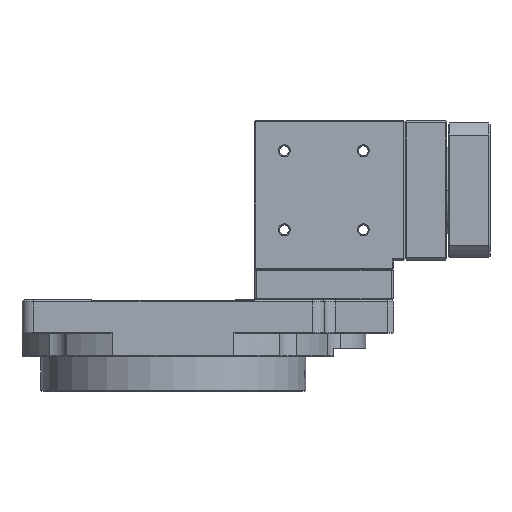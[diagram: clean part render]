
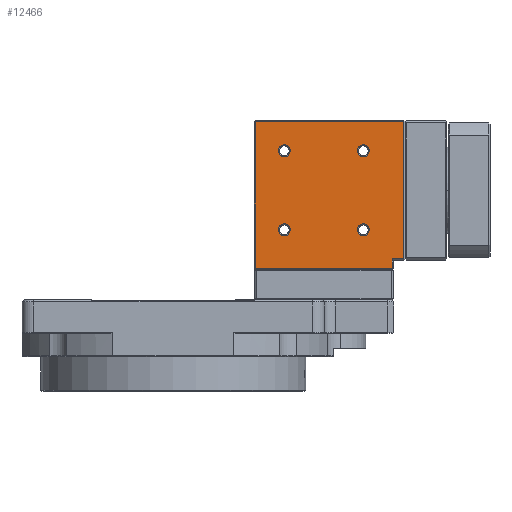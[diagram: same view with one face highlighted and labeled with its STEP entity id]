
A CAD part, left-side view. The second image highlights one B-rep face of the part: STEP entity #12466.
In plain terms, the highlighted planar face has unit normal (-1, 0, 0).
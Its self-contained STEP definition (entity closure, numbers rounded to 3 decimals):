
#392 = VERTEX_POINT ( 'NONE', #23809 ) ;
#496 = CARTESIAN_POINT ( 'NONE',  ( -30., -81.8, 30. ) ) ;
#538 = FACE_BOUND ( 'NONE', #18017, .T. ) ;
#599 = EDGE_CURVE ( 'NONE', #15937, #2745, #4019, .T. ) ;
#883 = CARTESIAN_POINT ( 'NONE',  ( -30., -35.3, 76.5 ) ) ;
#1084 = CARTESIAN_POINT ( 'NONE',  ( -30., -94.3, 17. ) ) ;
#1326 = LINE ( 'NONE', #1084, #6176 ) ;
#1551 = VERTEX_POINT ( 'NONE', #883 ) ;
#1647 = DIRECTION ( 'NONE',  ( 1., 0., 0. ) ) ;
#1804 = ORIENTED_EDGE ( 'NONE', *, *, #599, .T. ) ;
#1851 = VECTOR ( 'NONE', #4631, 1000. ) ;
#1941 = EDGE_CURVE ( 'NONE', #2745, #1551, #12264, .T. ) ;
#2095 = EDGE_CURVE ( 'NONE', #9287, #10861, #22363, .T. ) ;
#2164 = EDGE_LOOP ( 'NONE', ( #17955, #4407 ) ) ;
#2192 = CARTESIAN_POINT ( 'NONE',  ( -30., -81.8, 64. ) ) ;
#2228 = AXIS2_PLACEMENT_3D ( 'NONE', #2192, #4117, #7868 ) ;
#2311 = VERTEX_POINT ( 'NONE', #19031 ) ;
#2368 = DIRECTION ( 'NONE',  ( 0., 1., 0. ) ) ;
#2369 = FACE_BOUND ( 'NONE', #2164, .T. ) ;
#2601 = DIRECTION ( 'NONE',  ( 0., 1., 0. ) ) ;
#2745 = VERTEX_POINT ( 'NONE', #12428 ) ;
#3174 = EDGE_CURVE ( 'NONE', #392, #18259, #18302, .T. ) ;
#3214 = EDGE_LOOP ( 'NONE', ( #23731, #5977, #7365, #1804, #20085, #23746 ) ) ;
#3591 = CARTESIAN_POINT ( 'NONE',  ( -30., -84.4, 30. ) ) ;
#3787 = DIRECTION ( 'NONE',  ( 1., 0., 0. ) ) ;
#3812 = VECTOR ( 'NONE', #15493, 1000. ) ;
#3899 = AXIS2_PLACEMENT_3D ( 'NONE', #11581, #6121, #7699 ) ;
#4019 = LINE ( 'NONE', #5960, #21917 ) ;
#4117 = DIRECTION ( 'NONE',  ( 1., 0., 0. ) ) ;
#4407 = ORIENTED_EDGE ( 'NONE', *, *, #23702, .T. ) ;
#4631 = DIRECTION ( 'NONE',  ( 0., -1., 0. ) ) ;
#5156 = CARTESIAN_POINT ( 'NONE',  ( -30., -81.8, 64. ) ) ;
#5222 = AXIS2_PLACEMENT_3D ( 'NONE', #5156, #1647, #12556 ) ;
#5409 = VERTEX_POINT ( 'NONE', #14899 ) ;
#5494 = DIRECTION ( 'NONE',  ( 0., 0., 1. ) ) ;
#5528 = AXIS2_PLACEMENT_3D ( 'NONE', #7302, #3787, #11067 ) ;
#5826 = AXIS2_PLACEMENT_3D ( 'NONE', #15135, #11601, #20588 ) ;
#5960 = CARTESIAN_POINT ( 'NONE',  ( -30., -99.3, 77. ) ) ;
#5977 = ORIENTED_EDGE ( 'NONE', *, *, #9672, .T. ) ;
#5983 = CARTESIAN_POINT ( 'NONE',  ( -30., -50.4, 64. ) ) ;
#6005 = DIRECTION ( 'NONE',  ( 1., 0., 0. ) ) ;
#6121 = DIRECTION ( 'NONE',  ( 1., 0., 0. ) ) ;
#6176 = VECTOR ( 'NONE', #12366, 1000. ) ;
#6701 = AXIS2_PLACEMENT_3D ( 'NONE', #22966, #19093, #2601 ) ;
#7122 = AXIS2_PLACEMENT_3D ( 'NONE', #496, #17112, #23714 ) ;
#7177 = DIRECTION ( 'NONE',  ( 1., 0., 0. ) ) ;
#7223 = ORIENTED_EDGE ( 'NONE', *, *, #16419, .T. ) ;
#7302 = CARTESIAN_POINT ( 'NONE',  ( -30., -81.8, 30. ) ) ;
#7365 = ORIENTED_EDGE ( 'NONE', *, *, #20434, .T. ) ;
#7699 = DIRECTION ( 'NONE',  ( 0., 1., 0. ) ) ;
#7815 = FACE_OUTER_BOUND ( 'NONE', #3214, .T. ) ;
#7868 = DIRECTION ( 'NONE',  ( 0., 1., 0. ) ) ;
#7936 = FACE_BOUND ( 'NONE', #15566, .T. ) ;
#7994 = EDGE_CURVE ( 'NONE', #10793, #5409, #21250, .T. ) ;
#8338 = ORIENTED_EDGE ( 'NONE', *, *, #20906, .T. ) ;
#8628 = DIRECTION ( 'NONE',  ( 0., 1., 0. ) ) ;
#9049 = ORIENTED_EDGE ( 'NONE', *, *, #18249, .T. ) ;
#9266 = AXIS2_PLACEMENT_3D ( 'NONE', #19663, #7177, #8628 ) ;
#9287 = VERTEX_POINT ( 'NONE', #10337 ) ;
#9325 = EDGE_CURVE ( 'NONE', #15847, #14939, #13913, .T. ) ;
#9642 = FACE_BOUND ( 'NONE', #20263, .T. ) ;
#9672 = EDGE_CURVE ( 'NONE', #5409, #18040, #1326, .T. ) ;
#9761 = PLANE ( 'NONE',  #6701 ) ;
#9901 = VERTEX_POINT ( 'NONE', #16962 ) ;
#10288 = CARTESIAN_POINT ( 'NONE',  ( -30., -45.2, 64. ) ) ;
#10329 = ORIENTED_EDGE ( 'NONE', *, *, #3174, .T. ) ;
#10337 = CARTESIAN_POINT ( 'NONE',  ( -30., -79.2, 64. ) ) ;
#10793 = VERTEX_POINT ( 'NONE', #16722 ) ;
#10794 = EDGE_CURVE ( 'NONE', #9901, #2311, #14340, .T. ) ;
#10861 = VERTEX_POINT ( 'NONE', #20705 ) ;
#11067 = DIRECTION ( 'NONE',  ( 0., 1., 0. ) ) ;
#11129 = VECTOR ( 'NONE', #14324, 1000. ) ;
#11252 = CIRCLE ( 'NONE', #3899, 2.6 ) ;
#11527 = LINE ( 'NONE', #20859, #14916 ) ;
#11581 = CARTESIAN_POINT ( 'NONE',  ( -30., -47.8, 64. ) ) ;
#11601 = DIRECTION ( 'NONE',  ( 1., 0., 0. ) ) ;
#12226 = CARTESIAN_POINT ( 'NONE',  ( -30., -99.3, 17.5 ) ) ;
#12264 = LINE ( 'NONE', #22086, #11129 ) ;
#12366 = DIRECTION ( 'NONE',  ( 0., 0., 1. ) ) ;
#12428 = CARTESIAN_POINT ( 'NONE',  ( -30., -99.3, 76.5 ) ) ;
#12466 = ADVANCED_FACE ( 'NONE', ( #9642, #2369, #538, #7936, #7815 ), #9761, .T. ) ;
#12556 = DIRECTION ( 'NONE',  ( 0., 1., 0. ) ) ;
#13121 = LINE ( 'NONE', #16754, #3812 ) ;
#13498 = CIRCLE ( 'NONE', #19688, 2.6 ) ;
#13713 = DIRECTION ( 'NONE',  ( 0., 0., -1. ) ) ;
#13913 = CIRCLE ( 'NONE', #9266, 2.6 ) ;
#14111 = EDGE_CURVE ( 'NONE', #1551, #10793, #11527, .T. ) ;
#14324 = DIRECTION ( 'NONE',  ( 0., 1., 0. ) ) ;
#14340 = CIRCLE ( 'NONE', #5826, 2.6 ) ;
#14899 = CARTESIAN_POINT ( 'NONE',  ( -30., -94.3, 13.5 ) ) ;
#14913 = CIRCLE ( 'NONE', #5222, 2.6 ) ;
#14916 = VECTOR ( 'NONE', #13713, 1000. ) ;
#14939 = VERTEX_POINT ( 'NONE', #5983 ) ;
#15135 = CARTESIAN_POINT ( 'NONE',  ( -30., -47.8, 30. ) ) ;
#15226 = CARTESIAN_POINT ( 'NONE',  ( -30., -47.8, 30. ) ) ;
#15493 = DIRECTION ( 'NONE',  ( 0., -1., 0. ) ) ;
#15566 = EDGE_LOOP ( 'NONE', ( #10329, #7223 ) ) ;
#15847 = VERTEX_POINT ( 'NONE', #10288 ) ;
#15937 = VERTEX_POINT ( 'NONE', #12226 ) ;
#16419 = EDGE_CURVE ( 'NONE', #18259, #392, #20306, .T. ) ;
#16722 = CARTESIAN_POINT ( 'NONE',  ( -30., -35.3, 13.5 ) ) ;
#16754 = CARTESIAN_POINT ( 'NONE',  ( -30., -99.8, 17.5 ) ) ;
#16962 = CARTESIAN_POINT ( 'NONE',  ( -30., -50.4, 30. ) ) ;
#17112 = DIRECTION ( 'NONE',  ( 1., 0., 0. ) ) ;
#17254 = ORIENTED_EDGE ( 'NONE', *, *, #2095, .T. ) ;
#17443 = ORIENTED_EDGE ( 'NONE', *, *, #10794, .T. ) ;
#17955 = ORIENTED_EDGE ( 'NONE', *, *, #9325, .T. ) ;
#18017 = EDGE_LOOP ( 'NONE', ( #8338, #17443 ) ) ;
#18040 = VERTEX_POINT ( 'NONE', #20467 ) ;
#18249 = EDGE_CURVE ( 'NONE', #10861, #9287, #14913, .T. ) ;
#18259 = VERTEX_POINT ( 'NONE', #3591 ) ;
#18302 = CIRCLE ( 'NONE', #5528, 2.6 ) ;
#19031 = CARTESIAN_POINT ( 'NONE',  ( -30., -45.2, 30. ) ) ;
#19093 = DIRECTION ( 'NONE',  ( -1., 0., 0. ) ) ;
#19663 = CARTESIAN_POINT ( 'NONE',  ( -30., -47.8, 64. ) ) ;
#19688 = AXIS2_PLACEMENT_3D ( 'NONE', #15226, #6005, #2368 ) ;
#20085 = ORIENTED_EDGE ( 'NONE', *, *, #1941, .T. ) ;
#20263 = EDGE_LOOP ( 'NONE', ( #17254, #9049 ) ) ;
#20306 = CIRCLE ( 'NONE', #7122, 2.6 ) ;
#20434 = EDGE_CURVE ( 'NONE', #18040, #15937, #13121, .T. ) ;
#20467 = CARTESIAN_POINT ( 'NONE',  ( -30., -94.3, 17.5 ) ) ;
#20588 = DIRECTION ( 'NONE',  ( 0., 1., 0. ) ) ;
#20705 = CARTESIAN_POINT ( 'NONE',  ( -30., -84.4, 64. ) ) ;
#20859 = CARTESIAN_POINT ( 'NONE',  ( -30., -35.3, 13. ) ) ;
#20906 = EDGE_CURVE ( 'NONE', #2311, #9901, #13498, .T. ) ;
#21130 = CARTESIAN_POINT ( 'NONE',  ( -30., -94.8, 13.5 ) ) ;
#21250 = LINE ( 'NONE', #21130, #1851 ) ;
#21917 = VECTOR ( 'NONE', #5494, 1000. ) ;
#22086 = CARTESIAN_POINT ( 'NONE',  ( -30., -99.8, 76.5 ) ) ;
#22363 = CIRCLE ( 'NONE', #2228, 2.6 ) ;
#22966 = CARTESIAN_POINT ( 'NONE',  ( -30., -99.8, 77. ) ) ;
#23702 = EDGE_CURVE ( 'NONE', #14939, #15847, #11252, .T. ) ;
#23714 = DIRECTION ( 'NONE',  ( 0., 1., 0. ) ) ;
#23731 = ORIENTED_EDGE ( 'NONE', *, *, #7994, .T. ) ;
#23746 = ORIENTED_EDGE ( 'NONE', *, *, #14111, .T. ) ;
#23809 = CARTESIAN_POINT ( 'NONE',  ( -30., -79.2, 30. ) ) ;
